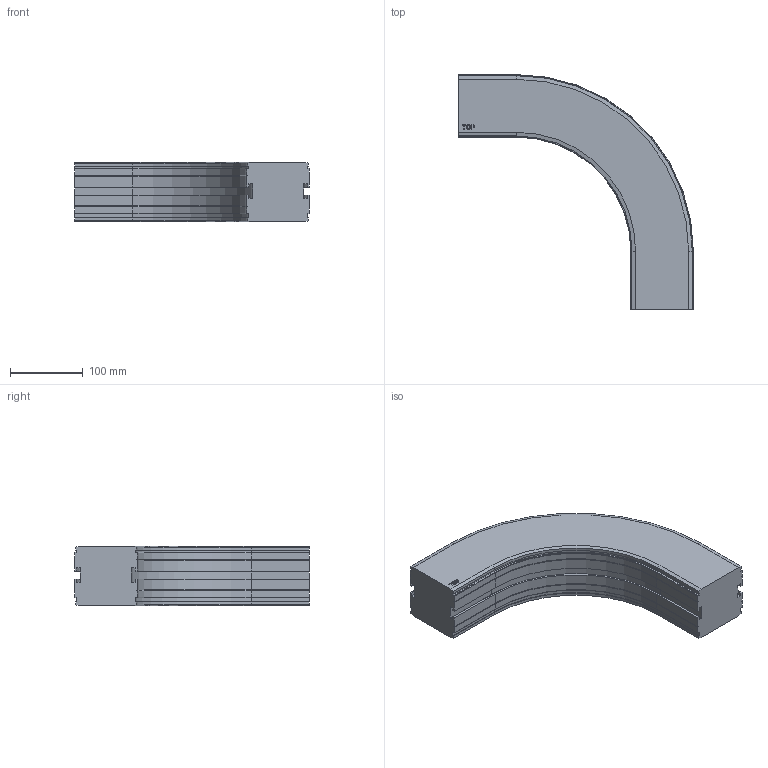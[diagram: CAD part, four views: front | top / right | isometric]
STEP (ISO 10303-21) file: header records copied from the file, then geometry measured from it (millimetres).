
FILE_DESCRIPTION((''),'2;1');
FILE_NAME('C:\Vault Klient\Projekt\Koncept konstruktion\Serie 830 Balk\830-5160.stp','2009-11-27T08:53:52',('Mathias'),(''),'Autodesk Inventor 2010','Autodesk Inventor 2010','');
FILE_SCHEMA(('AUTOMOTIVE_DESIGN { 1 0 10303 214 1 1 1 1 }'));
Length unit declared in the file: millimetre
Products named in the file (1): 830-5160
Bounding box: 323 x 323 x 81.5 mm (x, y, z)
Volume: 3151679.4 mm3; surface area: 207041.2 mm2
Topology: 1 solids, 1 shells, 169 faces, 446 edges, 284 vertices
Faces by surface type: plane 109, cylinder 30, bspline 14, cone 12, torus 4
Entity records: 5295 total; most frequent: CARTESIAN_POINT 1094, ORIENTED_EDGE 892, DIRECTION 802, EDGE_CURVE 446, VECTOR 346, LINE 346, VERTEX_POINT 284, AXIS2_PLACEMENT_3D 228
